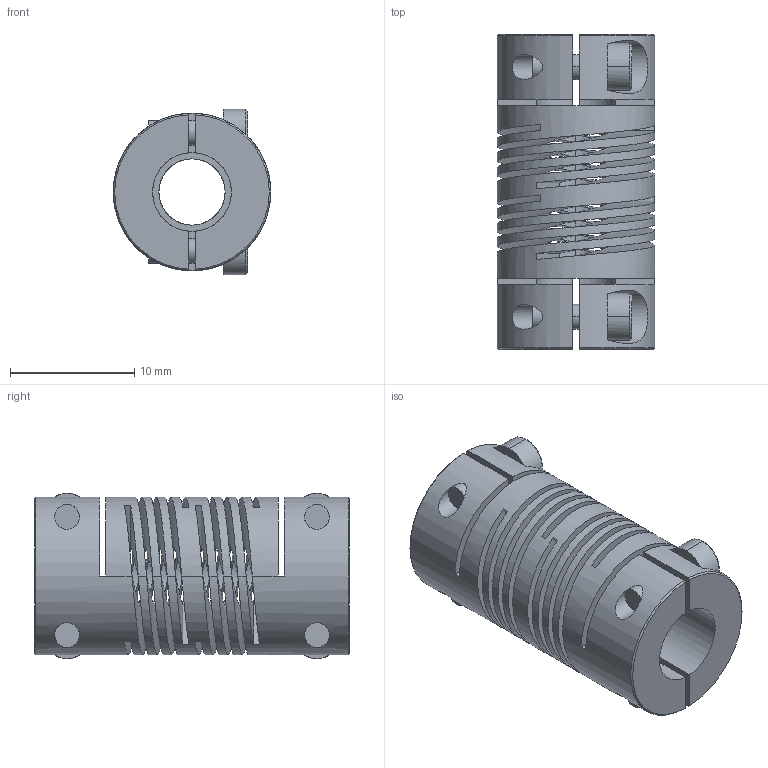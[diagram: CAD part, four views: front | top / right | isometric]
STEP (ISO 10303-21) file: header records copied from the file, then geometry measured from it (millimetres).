
FILE_DESCRIPTION((''),'2;1');
FILE_NAME('703_13','2006-12-06T',('Gary Melling'),(''),'PRO/ENGINEER BY PARAMETRIC TECHNOLOGY CORPORATION, 2006240','PRO/ENGINEER BY PARAMETRIC TECHNOLOGY CORPORATION, 2006240','');
FILE_SCHEMA(('CONFIG_CONTROL_DESIGN'));
Length unit declared in the file: millimetre
Products named in the file (1): 703_13
Bounding box: 12.7 x 25.4 x 13.32 mm (x, y, z)
Volume: 2015.4 mm3; surface area: 3637.8 mm2
Topology: 1 solids, 1 shells, 164 faces, 450 edges, 288 vertices
Faces by surface type: plane 82, cylinder 58, bspline 12, cone 12
Entity records: 7449 total; most frequent: CARTESIAN_POINT 3379, ORIENTED_EDGE 900, DIRECTION 742, EDGE_CURVE 450, VERTEX_POINT 288, AXIS2_PLACEMENT_3D 248, VECTOR 246, LINE 246
